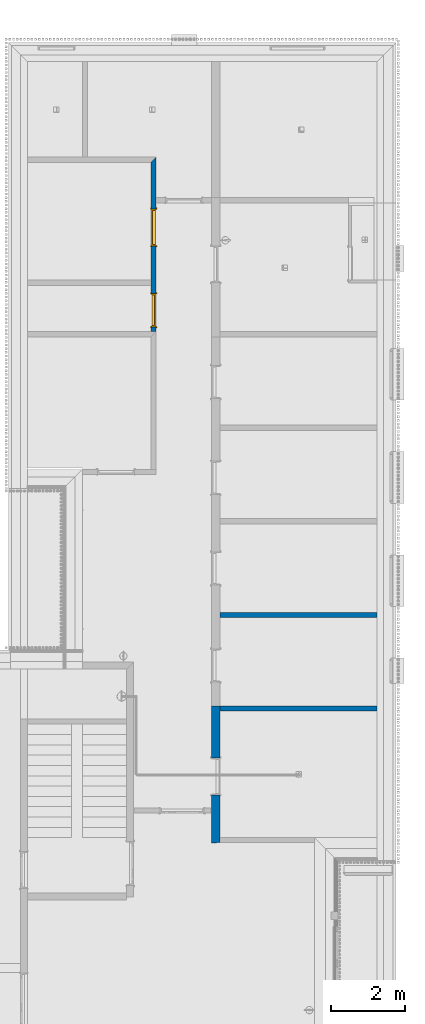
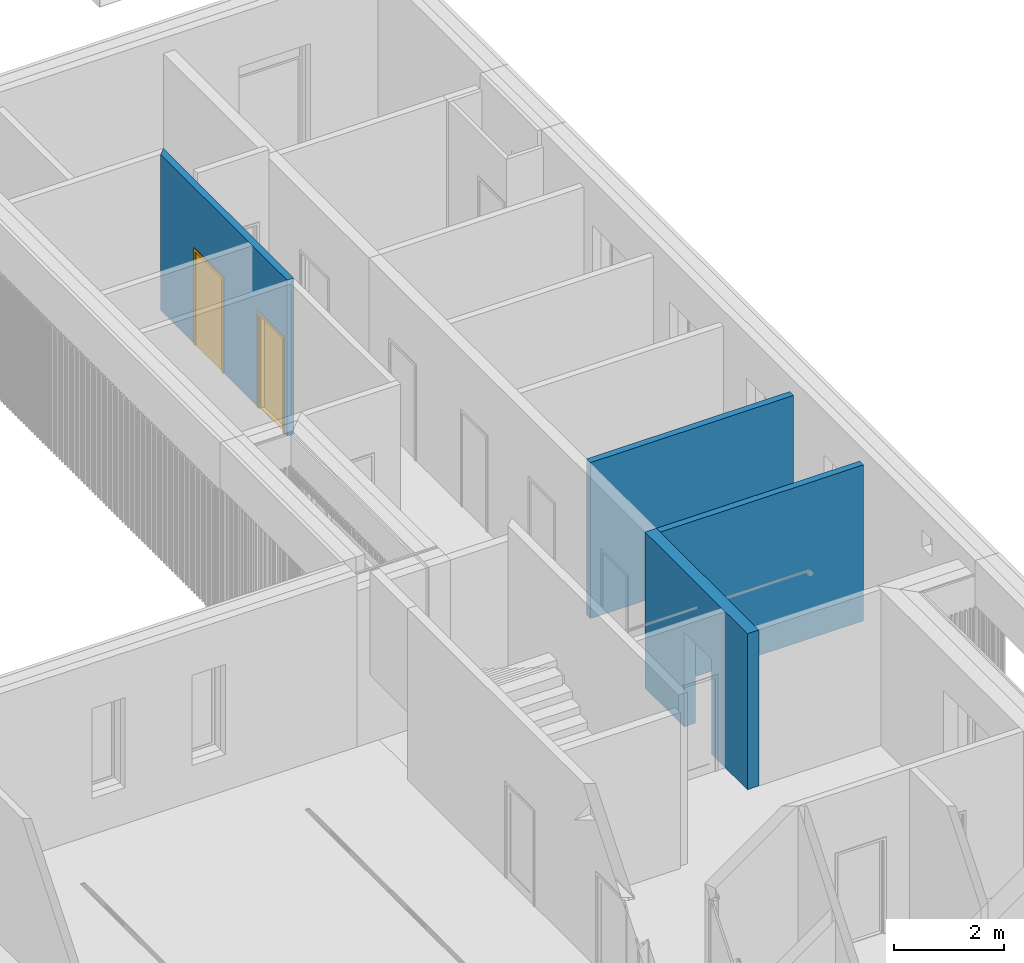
# One storey, part 16 of 112: 4 walls, 2 doors, 3 openings.
"""IFC2X3 building model written with IfcOpenShell, lengths in millimetres."""

from ifc_helpers import new_model, entity, si_unit, converted_unit, derived_unit, money_unit, direction, frame, origin_with_axes, origin_2d_with_axis, place, context, subcontext, project, spatial, polyline, rectangle, outline, extrude, faceted_brep, source, transform, mapped, material, layer, layer_set, layer_usage, type_object, element, fill, save


model = new_model("IFC2X3")

# Units and contexts
model_context = context("Model", 3, precision=0.01, world=origin_with_axes(), true_north=direction((0.0, 1.0)))
body_context = subcontext(model_context, "Body", "Model", "MODEL_VIEW")
ifc_project = project(units=[si_unit("LENGTHUNIT", "METRE", prefix="MILLI"), si_unit("AREAUNIT", "SQUARE_METRE"), si_unit("VOLUMEUNIT", "CUBIC_METRE"), converted_unit("PLANEANGLEUNIT", "DEGREE", entity("IfcPlaneAngleMeasure", 0.0174532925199), si_unit("PLANEANGLEUNIT", "RADIAN"), dimensions=[0, 0, 0, 0, 0, 0, 0]), si_unit("SOLIDANGLEUNIT", "STERADIAN"), money_unit("EUR"), converted_unit("TIMEUNIT", "Year", entity("IfcTimeMeasure", 31556926.0), si_unit("TIMEUNIT", "SECOND"), dimensions=[0, 0, 1, 0, 0, 0, 0]), si_unit("MASSUNIT", "GRAM", prefix="KILO"), si_unit("THERMODYNAMICTEMPERATUREUNIT", "DEGREE_CELSIUS"), si_unit("LUMINOUSINTENSITYUNIT", "LUMEN"), si_unit("ENERGYUNIT", "JOULE", prefix="MEGA"), derived_unit("THERMALCONDUCTANCEUNIT", [(si_unit("POWERUNIT", "WATT"), 1), (si_unit("LENGTHUNIT", "METRE"), -1), (si_unit("THERMODYNAMICTEMPERATUREUNIT", "KELVIN"), -1)]), derived_unit("SPECIFICHEATCAPACITYUNIT", [(si_unit("ENERGYUNIT", "JOULE"), 1), (si_unit("MASSUNIT", "GRAM", prefix="KILO"), -1), (si_unit("THERMODYNAMICTEMPERATUREUNIT", "KELVIN"), -1)]), derived_unit("MASSDENSITYUNIT", [(si_unit("MASSUNIT", "GRAM", prefix="KILO"), 1), (si_unit("VOLUMEUNIT", "CUBIC_METRE"), -1)])], contexts=[model_context])

# Site, building, storey
site_placement = place(None, origin_with_axes())
site = spatial("IfcSite", under=ifc_project, at=site_placement, Name="Politse- ja Piirivalveameti ning Päästeameti ühishoone", CompositionType="ELEMENT")
building_placement = place(site_placement, origin_with_axes())
building = spatial("IfcBuilding", under=site, at=building_placement, Name="Politse- ja Piirivalveameti ning Päästeameti ühishoone", CompositionType="ELEMENT")
storey_placement = place(building_placement, origin_with_axes())
storey = spatial("IfcBuildingStorey", under=building, at=storey_placement, Name="Esimene korrus", CompositionType="ELEMENT", Elevation=0.0)

# Wall, opening
ifc_material = material(Name="KON-05_Betoon Plokk - Konstuktsioon")
ifc_layer_1 = layer(ifc_material, 240.0, ventilated="UNKNOWN")
ifc_layer_set_1 = layer_set([ifc_layer_1], Name="SS-04_Sisesein 240")
ifc_layer_usage_1 = layer_usage(ifc_layer_set_1, "AXIS2", "NEGATIVE", 240.0)
wall_type_1 = type_object("IfcWallType", Name="SS-04_Sisesein 240 240", PredefinedType="NOTDEFINED")
wall_1_placement = place(storey_placement, frame((65160.5595507, 19999.809139, 0.0), z_axis=(0.0, 0.0, 1.0), x_axis=(0.0, -1.0, 0.0)))
wall_1 = element("IfcWallStandardCase", 1, at=wall_1_placement, inside=storey, type_object=wall_type_1, material=ifc_layer_usage_1, Name="SS-04", context=body_context, shape_type="SweptSolid", body=[
    extrude(outline(polyline([(0.0, 0.0), (3722.0, 0.0), (3717.0, 240.0), (0.0, 240.0), (0.0, 0.0)])), origin_with_axes(), (0.0, 0.0, 1.0), 3460.0),
])
opening_1_placement = place(wall_1_placement, frame((1918.0, 0.0, 0.0), z_axis=(0.0, 0.0, 1.0), x_axis=(1.0, 0.0, 0.0)))
element("IfcOpeningElement", 2, at=opening_1_placement, cuts=wall_1, Name="TU-01-8", context=body_context, shape_type="SweptSolid", body=[
    extrude(rectangle(XDim=1000.0, YDim=2100.0, at=origin_2d_with_axis()), frame((0.0, -240.0, 1050.0), z_axis=(0.0, -1.0, 0.0), x_axis=(-1.0, 0.0, 0.0)), (0.0, 0.0, -1.0), 720.0),
    extrude(rectangle(XDim=1074.0, YDim=2137.0, at=origin_2d_with_axis()), frame((0.0, 0.0, 1068.5), z_axis=(0.0, -1.0, 0.0), x_axis=(-1.0, 0.0, 0.0)), (0.0, 0.0, 1.0), 240.0),
    extrude(rectangle(XDim=1074.0, YDim=2137.0, at=origin_2d_with_axis()), frame((0.0, 240.0, 1068.5), z_axis=(0.0, 1.0, 0.0), x_axis=(-1.0, 0.0, 0.0)), (0.0, 0.0, 1.0), 240.0),
])

# Walls
ifc_layer_2 = layer(ifc_material, 140.0, ventilated="UNKNOWN")
ifc_layer_set_2 = layer_set([ifc_layer_2], Name="SS-02_Sisesein 140")
ifc_layer_usage_2 = layer_usage(ifc_layer_set_2, "AXIS2", "NEGATIVE", 140.0)
wall_type_2 = type_object("IfcWallType", Name="SS-02_Sisesein 140 140", PredefinedType="NOTDEFINED")
wall_2_placement = place(storey_placement, frame((69660.5664257, 22539.809139, 0.0), z_axis=(0.0, 0.0, 1.0), x_axis=(-1.0, 0.0, 0.0)))
element("IfcWallStandardCase", 3, at=wall_2_placement, inside=storey, type_object=wall_type_2, material=ifc_layer_usage_2, Name="SS-02", context=body_context, shape_type="SweptSolid", body=[
    extrude(outline(polyline([(0.0, 0.0), (4260.006875, 0.0), (4260.006875, 140.0), (0.0, 140.0), (0.0, 0.0)])), origin_with_axes(), (0.0, 0.0, 1.0), 3460.0),
])
ifc_layer_usage_3 = layer_usage(ifc_layer_set_2, "AXIS2", "NEGATIVE", 140.0)
wall_3_placement = place(storey_placement, frame((69660.5664257, 19999.809139, 0.0), z_axis=(0.0, 0.0, 1.0), x_axis=(-1.0, 0.0, 0.0)))
element("IfcWallStandardCase", 4, at=wall_3_placement, inside=storey, type_object=wall_type_2, material=ifc_layer_usage_3, Name="SS-02", context=body_context, shape_type="SweptSolid", body=[
    extrude(outline(polyline([(0.0, 0.0), (4260.006875, 0.0), (4260.006875, 140.0), (0.0, 140.0), (0.0, 0.0)])), origin_with_axes(), (0.0, 0.0, 1.0), 3460.0),
])

# Wall, openings, doors
ifc_layer_usage_4 = layer_usage(ifc_layer_set_2, "AXIS2", "NEGATIVE", 140.0)
wall_4_placement = place(storey_placement, frame((63660.557259, 30160.0702441, 0.0), z_axis=(0.0, 0.0, 1.0), x_axis=(0.0, 1.0, 0.0)))
wall_4 = element("IfcWallStandardCase", 5, at=wall_4_placement, inside=storey, type_object=wall_type_2, material=ifc_layer_usage_4, Name="SS-02", context=body_context, shape_type="SweptSolid", body=[
    extrude(outline(polyline([(0.0, 0.0), (4739.66452767, 0.0), (4599.66452767, 140.0), (0.0, 140.0), (0.0, 0.0)])), origin_with_axes(), (0.0, 0.0, 1.0), 3460.0),
])
opening_2_placement = place(wall_4_placement, frame((2831.65664117, 0.0, 0.0), z_axis=(0.0, 0.0, 1.0), x_axis=(1.0, 0.0, 0.0)))
opening_2 = element("IfcOpeningElement", 6, at=opening_2_placement, cuts=wall_4, Name="SU-01-2", context=body_context, shape_type="SweptSolid", body=[
    extrude(rectangle(XDim=1000.0, YDim=2100.0, at=origin_2d_with_axis()), frame((0.0, -140.0, 1050.0), z_axis=(0.0, 1.0, 0.0), x_axis=(1.0, 0.0, 0.0)), (0.0, 0.0, 1.0), 420.0),
    extrude(rectangle(XDim=1074.0, YDim=2137.0, at=origin_2d_with_axis()), frame((0.0, 0.0, 1068.5), z_axis=(0.0, 1.0, 0.0), x_axis=(1.0, 0.0, 0.0)), (0.0, 0.0, -1.0), 140.0),
    extrude(rectangle(XDim=1074.0, YDim=2137.0, at=origin_2d_with_axis()), frame((0.0, 140.0, 1068.5), z_axis=(0.0, -1.0, 0.0), x_axis=(1.0, 0.0, 0.0)), (0.0, 0.0, -1.0), 140.0),
])
opening_3_placement = place(wall_4_placement, frame((581.654300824, 0.0, 0.0), z_axis=(0.0, 0.0, 1.0), x_axis=(1.0, 0.0, 0.0)))
opening_3 = element("IfcOpeningElement", 7, at=opening_3_placement, cuts=wall_4, Name="SU-01-1", context=body_context, shape_type="SweptSolid", body=[
    extrude(rectangle(XDim=900.0, YDim=2100.0, at=origin_2d_with_axis()), frame((0.0, 140.0, 1050.0), z_axis=(0.0, 1.0, 0.0), x_axis=(1.0, 0.0, 0.0)), (0.0, 0.0, -1.0), 420.0),
    extrude(rectangle(XDim=974.0, YDim=2137.0, at=origin_2d_with_axis()), frame((0.0, 140.0, 1068.5), z_axis=(0.0, 1.0, 0.0), x_axis=(1.0, 0.0, 0.0)), (0.0, 0.0, 1.0), 140.0),
    extrude(rectangle(XDim=974.0, YDim=2137.0, at=origin_2d_with_axis()), frame((0.0, 0.0, 1068.5), z_axis=(0.0, -1.0, 0.0), x_axis=(1.0, 0.0, 0.0)), (0.0, 0.0, 1.0), 140.0),
])
door_style_1 = type_object("IfcDoorStyle", Name="Door 23", ConstructionType="NOTDEFINED", OperationType="SINGLE_SWING_LEFT", ParameterTakesPrecedence=False, Sizeable=False)
shared_shape_1 = source(origin_with_axes(), body_context, "Body", "Brep", [
    faceted_brep([(-422.0, -40.0, 0.0), (-410.0, -40.0, 0.0), (-410.0, -40.0, 12.0), (-422.0, -40.0, 12.0), (422.0, -40.0, 0.0), (410.0, -40.0, 0.0), (410.0, -115.0, 0.0), (-410.0, -115.0, 0.0), (-410.0, -115.0, 12.0), (410.0, -115.0, 12.0), (410.0, -40.0, 12.0), (422.0, -40.0, 12.0)], [[[0, 1, 2, 3]], [[0, 4, 5, 6, 7, 1]], [[1, 7, 8, 2]], [[3, 2, 8, 9, 10, 11]], [[4, 0, 3, 11]], [[5, 4, 11, 10]], [[6, 5, 10, 9]], [[7, 6, 9, 8]]]),
    faceted_brep([(450.0, -115.0, 0.0), (450.0, -140.0, 0.0), (425.0, -140.0, 0.0), (425.0, -115.0, 0.0), (450.0, -115.0, 2100.0), (450.0, -140.0, 2100.0), (425.0, -140.0, 2075.0), (425.0, -115.0, 2075.0)], [[[0, 1, 2, 3]], [[4, 5, 1, 0]], [[1, 5, 6, 2]], [[3, 2, 6, 7]], [[0, 3, 7, 4]], [[7, 6, 5, 4]]]),
    faceted_brep([(-450.0, -115.0, 2100.0), (-450.0, -140.0, 2100.0), (-425.0, -140.0, 2075.0), (-425.0, -115.0, 2075.0), (-450.0, -115.0, 0.0), (-450.0, -140.0, 0.0), (-425.0, -140.0, 0.0), (-425.0, -115.0, 0.0)], [[[0, 1, 2, 3]], [[4, 5, 1, 0]], [[1, 5, 6, 2]], [[3, 2, 6, 7]], [[0, 3, 7, 4]], [[7, 6, 5, 4]]]),
    faceted_brep([(425.0, -115.0, 2075.0), (425.0, -140.0, 2075.0), (-425.0, -140.0, 2075.0), (-425.0, -115.0, 2075.0), (450.0, -115.0, 2100.0), (450.0, -140.0, 2100.0), (-450.0, -140.0, 2100.0), (-450.0, -115.0, 2100.0)], [[[0, 1, 2, 3]], [[4, 5, 1, 0]], [[1, 5, 6, 2]], [[3, 2, 6, 7]], [[0, 3, 7, 4]], [[7, 6, 5, 4]]]),
    faceted_brep([(487.0, -159.0, 0.0), (437.0, -159.0, 0.0), (437.0, -140.0, 0.0), (487.0, -140.0, 0.0), (487.0, -159.0, 2137.0), (437.0, -159.0, 2087.0), (437.0, -140.0, 2087.0), (487.0, -140.0, 2137.0)], [[[0, 1, 2, 3]], [[0, 4, 5, 1]], [[1, 5, 6, 2]], [[3, 2, 6, 7]], [[4, 0, 3, 7]], [[5, 4, 7, 6]]]),
    faceted_brep([(-487.0, -159.0, 2137.0), (-437.0, -159.0, 2087.0), (-437.0, -140.0, 2087.0), (-487.0, -140.0, 2137.0), (-487.0, -159.0, 0.0), (-437.0, -159.0, 0.0), (-437.0, -140.0, 0.0), (-487.0, -140.0, 0.0)], [[[0, 1, 2, 3]], [[0, 4, 5, 1]], [[1, 5, 6, 2]], [[3, 2, 6, 7]], [[4, 0, 3, 7]], [[5, 4, 7, 6]]]),
    faceted_brep([(487.0, -159.0, 2137.0), (437.0, -159.0, 2087.0), (437.0, -140.0, 2087.0), (487.0, -140.0, 2137.0), (-487.0, -159.0, 2137.0), (-437.0, -159.0, 2087.0), (-437.0, -140.0, 2087.0), (-487.0, -140.0, 2137.0)], [[[0, 1, 2, 3]], [[0, 4, 5, 1]], [[1, 5, 6, 2]], [[3, 2, 6, 7]], [[4, 0, 3, 7]], [[5, 4, 7, 6]]]),
    faceted_brep([(487.0, 19.0, 0.0), (487.0, 0.0, 0.0), (437.0, 0.0, 0.0), (437.0, 19.0, 0.0), (487.0, 19.0, 2137.0), (487.0, 0.0, 2137.0), (437.0, 0.0, 2087.0), (437.0, 19.0, 2087.0)], [[[0, 1, 2, 3]], [[4, 5, 1, 0]], [[1, 5, 6, 2]], [[3, 2, 6, 7]], [[0, 3, 7, 4]], [[7, 6, 5, 4]]]),
    faceted_brep([(-487.0, 19.0, 2137.0), (-487.0, 0.0, 2137.0), (-437.0, 0.0, 2087.0), (-437.0, 19.0, 2087.0), (-487.0, 19.0, 0.0), (-487.0, 0.0, 0.0), (-437.0, 0.0, 0.0), (-437.0, 19.0, 0.0)], [[[0, 1, 2, 3]], [[4, 5, 1, 0]], [[1, 5, 6, 2]], [[3, 2, 6, 7]], [[0, 3, 7, 4]], [[7, 6, 5, 4]]]),
    faceted_brep([(487.0, 19.0, 2137.0), (487.0, 0.0, 2137.0), (437.0, 0.0, 2087.0), (437.0, 19.0, 2087.0), (-487.0, 19.0, 2137.0), (-487.0, 0.0, 2137.0), (-437.0, 0.0, 2087.0), (-437.0, 19.0, 2087.0)], [[[0, 1, 2, 3]], [[4, 5, 1, 0]], [[1, 5, 6, 2]], [[3, 2, 6, 7]], [[0, 3, 7, 4]], [[7, 6, 5, 4]]]),
    faceted_brep([(410.0, -40.0, 0.0), (410.0, -115.0, 0.0), (410.0, -115.0, 2060.0), (410.0, -40.0, 2060.0), (422.0, -40.0, 0.0), (422.0, 0.0, 0.0), (450.0, 0.0, 0.0), (450.0, -115.0, 0.0), (450.0, -115.0, 2060.0), (422.0, -40.0, 2060.0), (450.0, 0.0, 2060.0), (422.0, 0.0, 2060.0)], [[[0, 1, 2, 3]], [[4, 5, 6, 7, 1, 0]], [[1, 7, 8, 2]], [[9, 3, 2, 8, 10, 11]], [[9, 4, 0, 3]], [[11, 5, 4, 9]], [[11, 10, 6, 5]], [[6, 10, 8, 7]]]),
    faceted_brep([(-422.0, -40.0, 2060.0), (-422.0, 0.0, 2060.0), (-450.0, 0.0, 2060.0), (-450.0, -115.0, 2060.0), (-410.0, -115.0, 2060.0), (-410.0, -40.0, 2060.0), (-422.0, -40.0, 0.0), (-422.0, 0.0, 0.0), (-450.0, 0.0, 0.0), (-450.0, -115.0, 0.0), (-410.0, -115.0, 0.0), (-410.0, -40.0, 0.0)], [[[0, 1, 2, 3, 4, 5]], [[0, 6, 7, 1]], [[7, 8, 2, 1]], [[2, 8, 9, 3]], [[3, 9, 10, 4]], [[5, 4, 10, 11]], [[5, 11, 6, 0]], [[6, 11, 10, 9, 8, 7]]]),
    faceted_brep([(422.0, 0.0, 2072.0), (-422.0, 0.0, 2072.0), (-422.0, 0.0, 2060.0), (-450.0, 0.0, 2060.0), (-450.0, 0.0, 2100.0), (450.0, 0.0, 2100.0), (450.0, 0.0, 2060.0), (422.0, 0.0, 2060.0), (422.0, -40.0, 2072.0), (-422.0, -40.0, 2072.0), (-422.0, -40.0, 2060.0), (-410.0, -40.0, 2060.0), (-410.0, -115.0, 2060.0), (-450.0, -115.0, 2060.0), (-450.0, -115.0, 2100.0), (450.0, -115.0, 2100.0), (450.0, -115.0, 2060.0), (422.0, -40.0, 2060.0), (410.0, -115.0, 2060.0), (410.0, -40.0, 2060.0)], [[[0, 1, 2, 3, 4, 5, 6, 7]], [[0, 8, 9, 1]], [[1, 9, 10, 2]], [[10, 11, 12, 13, 3, 2]], [[4, 3, 13, 14]], [[5, 4, 14, 15]], [[6, 5, 15, 16]], [[17, 7, 6, 16, 18, 19]], [[7, 17, 8, 0]], [[10, 9, 8, 17, 19, 11]], [[19, 18, 12, 11]], [[12, 18, 16, 15, 14, 13]]]),
    faceted_brep([(-422.0, 0.0, 0.0), (422.0, 0.0, 0.0), (422.0, -40.0, 0.0), (-422.0, -40.0, 0.0), (-422.0, 0.0, 2072.0), (422.0, 0.0, 2072.0), (422.0, -40.0, 2072.0), (-422.0, -40.0, 2072.0)], [[[0, 1, 2, 3]], [[0, 4, 5, 1]], [[1, 5, 6, 2]], [[3, 2, 6, 7]], [[4, 0, 3, 7]], [[5, 4, 7, 6]]]),
])
door_1_placement = place(opening_3_placement, frame((450.0, 0.0, 0.0), z_axis=(0.0, 0.0, 1.0), x_axis=(-1.0, 0.0, 0.0)))
door_1 = element("IfcDoor", 8, at=door_1_placement, inside=storey, type_object=door_style_1, Name="SU-01-1", ObjectType="DOOR", OverallHeight=2100.0, OverallWidth=900.0, context=body_context, shape_type="MappedRepresentation", body=[
    mapped(shared_shape_1, transform((450.0, 0.0, 0.0))),
])
fill(opening_3, door_1)
door_style_2 = type_object("IfcDoorStyle", Name="Door 23", ConstructionType="NOTDEFINED", OperationType="SINGLE_SWING_RIGHT", ParameterTakesPrecedence=False, Sizeable=False)
shared_shape_2 = source(origin_with_axes(), body_context, "Body", "Brep", [
    faceted_brep([(472.0, -40.0, 0.0), (472.0, -40.0, 12.0), (460.0, -40.0, 12.0), (460.0, -40.0, 0.0), (-472.0, -40.0, 0.0), (-472.0, -40.0, 12.0), (-460.0, -40.0, 12.0), (-460.0, -115.0, 12.0), (460.0, -115.0, 12.0), (460.0, -115.0, 0.0), (-460.0, -115.0, 0.0), (-460.0, -40.0, 0.0)], [[[0, 1, 2, 3]], [[4, 5, 1, 0]], [[1, 5, 6, 7, 8, 2]], [[3, 2, 8, 9]], [[0, 3, 9, 10, 11, 4]], [[11, 6, 5, 4]], [[10, 7, 6, 11]], [[9, 8, 7, 10]]]),
    faceted_brep([(-500.0, -115.0, 0.0), (-475.0, -115.0, 0.0), (-475.0, -140.0, 0.0), (-500.0, -140.0, 0.0), (-500.0, -115.0, 2100.0), (-475.0, -115.0, 2075.0), (-475.0, -140.0, 2075.0), (-500.0, -140.0, 2100.0)], [[[0, 1, 2, 3]], [[0, 4, 5, 1]], [[1, 5, 6, 2]], [[3, 2, 6, 7]], [[4, 0, 3, 7]], [[5, 4, 7, 6]]]),
    faceted_brep([(500.0, -115.0, 2100.0), (475.0, -115.0, 2075.0), (475.0, -140.0, 2075.0), (500.0, -140.0, 2100.0), (500.0, -115.0, 0.0), (475.0, -115.0, 0.0), (475.0, -140.0, 0.0), (500.0, -140.0, 0.0)], [[[0, 1, 2, 3]], [[0, 4, 5, 1]], [[1, 5, 6, 2]], [[3, 2, 6, 7]], [[4, 0, 3, 7]], [[5, 4, 7, 6]]]),
    faceted_brep([(-475.0, -115.0, 2075.0), (475.0, -115.0, 2075.0), (475.0, -140.0, 2075.0), (-475.0, -140.0, 2075.0), (-500.0, -115.0, 2100.0), (500.0, -115.0, 2100.0), (500.0, -140.0, 2100.0), (-500.0, -140.0, 2100.0)], [[[0, 1, 2, 3]], [[0, 4, 5, 1]], [[1, 5, 6, 2]], [[3, 2, 6, 7]], [[4, 0, 3, 7]], [[5, 4, 7, 6]]]),
    faceted_brep([(-537.0, -159.0, 0.0), (-537.0, -140.0, 0.0), (-487.0, -140.0, 0.0), (-487.0, -159.0, 0.0), (-537.0, -159.0, 2137.0), (-537.0, -140.0, 2137.0), (-487.0, -140.0, 2087.0), (-487.0, -159.0, 2087.0)], [[[0, 1, 2, 3]], [[4, 5, 1, 0]], [[1, 5, 6, 2]], [[3, 2, 6, 7]], [[0, 3, 7, 4]], [[7, 6, 5, 4]]]),
    faceted_brep([(537.0, -159.0, 2137.0), (537.0, -140.0, 2137.0), (487.0, -140.0, 2087.0), (487.0, -159.0, 2087.0), (537.0, -159.0, 0.0), (537.0, -140.0, 0.0), (487.0, -140.0, 0.0), (487.0, -159.0, 0.0)], [[[0, 1, 2, 3]], [[4, 5, 1, 0]], [[1, 5, 6, 2]], [[3, 2, 6, 7]], [[0, 3, 7, 4]], [[7, 6, 5, 4]]]),
    faceted_brep([(-537.0, -159.0, 2137.0), (-537.0, -140.0, 2137.0), (-487.0, -140.0, 2087.0), (-487.0, -159.0, 2087.0), (537.0, -159.0, 2137.0), (537.0, -140.0, 2137.0), (487.0, -140.0, 2087.0), (487.0, -159.0, 2087.0)], [[[0, 1, 2, 3]], [[4, 5, 1, 0]], [[1, 5, 6, 2]], [[3, 2, 6, 7]], [[0, 3, 7, 4]], [[7, 6, 5, 4]]]),
    faceted_brep([(-537.0, 19.0, 0.0), (-487.0, 19.0, 0.0), (-487.0, 0.0, 0.0), (-537.0, 0.0, 0.0), (-537.0, 19.0, 2137.0), (-487.0, 19.0, 2087.0), (-487.0, 0.0, 2087.0), (-537.0, 0.0, 2137.0)], [[[0, 1, 2, 3]], [[0, 4, 5, 1]], [[1, 5, 6, 2]], [[3, 2, 6, 7]], [[4, 0, 3, 7]], [[5, 4, 7, 6]]]),
    faceted_brep([(537.0, 19.0, 2137.0), (487.0, 19.0, 2087.0), (487.0, 0.0, 2087.0), (537.0, 0.0, 2137.0), (537.0, 19.0, 0.0), (487.0, 19.0, 0.0), (487.0, 0.0, 0.0), (537.0, 0.0, 0.0)], [[[0, 1, 2, 3]], [[0, 4, 5, 1]], [[1, 5, 6, 2]], [[3, 2, 6, 7]], [[4, 0, 3, 7]], [[5, 4, 7, 6]]]),
    faceted_brep([(-537.0, 19.0, 2137.0), (-487.0, 19.0, 2087.0), (-487.0, 0.0, 2087.0), (-537.0, 0.0, 2137.0), (537.0, 19.0, 2137.0), (487.0, 19.0, 2087.0), (487.0, 0.0, 2087.0), (537.0, 0.0, 2137.0)], [[[0, 1, 2, 3]], [[0, 4, 5, 1]], [[1, 5, 6, 2]], [[3, 2, 6, 7]], [[4, 0, 3, 7]], [[5, 4, 7, 6]]]),
    faceted_brep([(-460.0, -40.0, 0.0), (-460.0, -40.0, 2060.0), (-460.0, -115.0, 2060.0), (-460.0, -115.0, 0.0), (-472.0, -40.0, 2060.0), (-472.0, -40.0, 0.0), (-472.0, 0.0, 2060.0), (-500.0, 0.0, 2060.0), (-500.0, -115.0, 2060.0), (-500.0, -115.0, 0.0), (-500.0, 0.0, 0.0), (-472.0, 0.0, 0.0)], [[[0, 1, 2, 3]], [[4, 1, 0, 5]], [[4, 6, 7, 8, 2, 1]], [[3, 2, 8, 9]], [[5, 0, 3, 9, 10, 11]], [[6, 4, 5, 11]], [[6, 11, 10, 7]], [[10, 9, 8, 7]]]),
    faceted_brep([(472.0, -40.0, 2060.0), (460.0, -40.0, 2060.0), (460.0, -115.0, 2060.0), (500.0, -115.0, 2060.0), (500.0, 0.0, 2060.0), (472.0, 0.0, 2060.0), (472.0, -40.0, 0.0), (460.0, -40.0, 0.0), (460.0, -115.0, 0.0), (500.0, -115.0, 0.0), (500.0, 0.0, 0.0), (472.0, 0.0, 0.0)], [[[0, 1, 2, 3, 4, 5]], [[1, 0, 6, 7]], [[1, 7, 8, 2]], [[3, 2, 8, 9]], [[4, 3, 9, 10]], [[11, 5, 4, 10]], [[0, 5, 11, 6]], [[6, 11, 10, 9, 8, 7]]]),
    faceted_brep([(-472.0, 0.0, 2072.0), (-472.0, 0.0, 2060.0), (-500.0, 0.0, 2060.0), (-500.0, 0.0, 2100.0), (500.0, 0.0, 2100.0), (500.0, 0.0, 2060.0), (472.0, 0.0, 2060.0), (472.0, 0.0, 2072.0), (-472.0, -40.0, 2072.0), (-472.0, -40.0, 2060.0), (-460.0, -40.0, 2060.0), (-460.0, -115.0, 2060.0), (-500.0, -115.0, 2060.0), (-500.0, -115.0, 2100.0), (500.0, -115.0, 2100.0), (500.0, -115.0, 2060.0), (472.0, -40.0, 2060.0), (460.0, -115.0, 2060.0), (460.0, -40.0, 2060.0), (472.0, -40.0, 2072.0)], [[[0, 1, 2, 3, 4, 5, 6, 7]], [[1, 0, 8, 9]], [[9, 10, 11, 12, 2, 1]], [[2, 12, 13, 3]], [[3, 13, 14, 4]], [[4, 14, 15, 5]], [[16, 6, 5, 15, 17, 18]], [[7, 6, 16, 19]], [[0, 7, 19, 8]], [[16, 18, 10, 9, 8, 19]], [[10, 18, 17, 11]], [[17, 15, 14, 13, 12, 11]]]),
    faceted_brep([(472.0, 0.0, 0.0), (472.0, -40.0, 0.0), (-472.0, -40.0, 0.0), (-472.0, 0.0, 0.0), (472.0, 0.0, 2072.0), (472.0, -40.0, 2072.0), (-472.0, -40.0, 2072.0), (-472.0, 0.0, 2072.0)], [[[0, 1, 2, 3]], [[4, 5, 1, 0]], [[1, 5, 6, 2]], [[3, 2, 6, 7]], [[0, 3, 7, 4]], [[7, 6, 5, 4]]]),
])
door_2_placement = place(opening_2_placement, frame((-500.0, 0.0, 0.0), z_axis=(0.0, 0.0, 1.0), x_axis=(1.0, 0.0, 0.0)))
door_2 = element("IfcDoor", 9, at=door_2_placement, inside=storey, type_object=door_style_2, Name="SU-01-2", ObjectType="DOOR", OverallHeight=2100.0, OverallWidth=1000.0, context=body_context, shape_type="MappedRepresentation", body=[
    mapped(shared_shape_2, transform((500.0, 140.0, 0.0))),
])
fill(opening_2, door_2)

save(model, "model.ifc")
